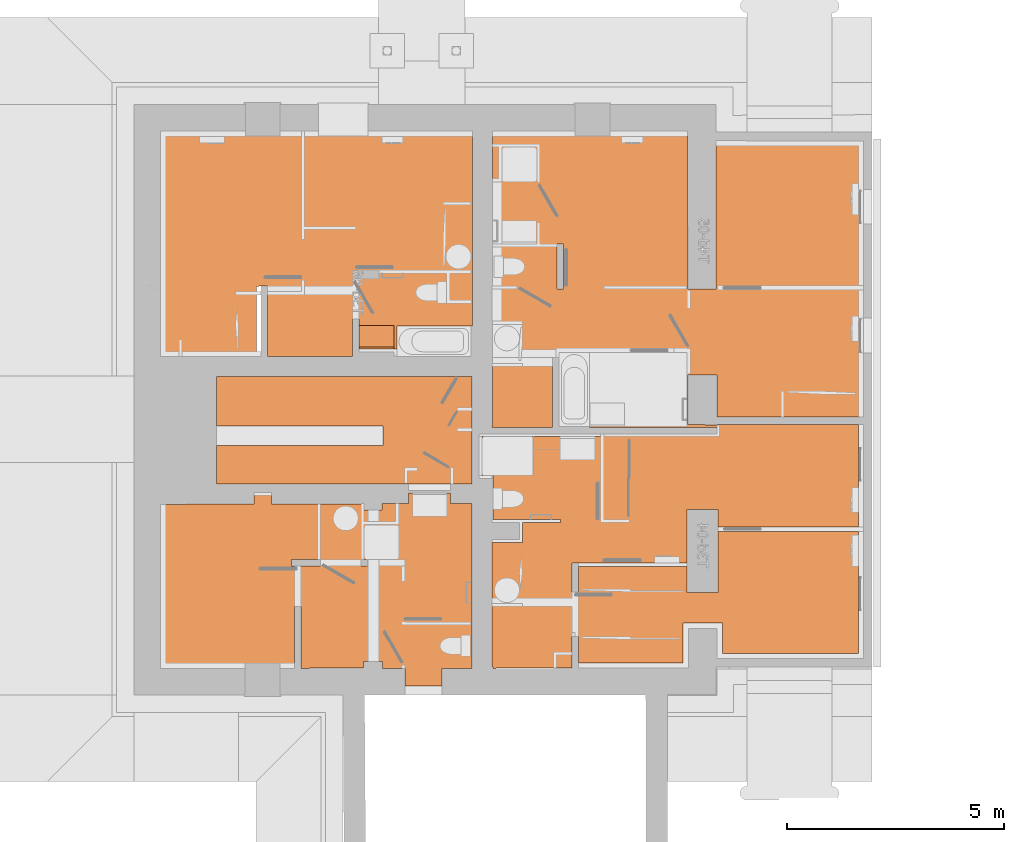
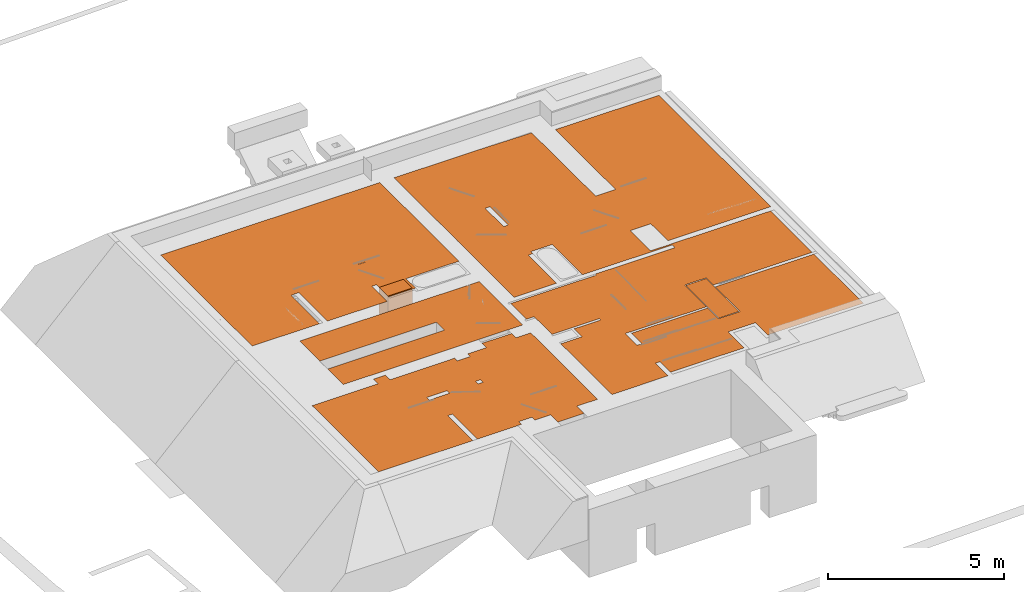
# Not in any storey, part 11 of 22: 2 proxies.
"""IFC4 model written with IfcOpenShell, lengths in metres."""

from ifc_helpers import new_model, si_unit, direction, origin_with_axes, place, context, subcontext, project, faceted_brep, element, save


model = new_model("IFC4")

# Units and contexts
model_context = context("Model", 3, precision=1e-05, world=origin_with_axes(), true_north=direction((1.0, 0.0)))
body_context = subcontext(model_context, "Body", "Model", "MODEL_VIEW")
ifc_project = project(units=[si_unit("LENGTHUNIT", "METRE"), si_unit("AREAUNIT", "SQUARE_METRE"), si_unit("VOLUMEUNIT", "CUBIC_METRE"), si_unit("MASSUNIT", "GRAM", prefix="KILO"), si_unit("TIMEUNIT", "SECOND"), si_unit("PLANEANGLEUNIT", "RADIAN"), si_unit("SOLIDANGLEUNIT", "STERADIAN")], contexts=[model_context])

# Proxies
placement = place(None, origin_with_axes())
element("IfcBuildingElementProxy", 1, at=placement, Name="Bloc Vasque", PredefinedType="NOTDEFINED", context=body_context, shape_type="AdvancedBrep", body=[
    faceted_brep([(145.491386, 24.534842, 1.41), (146.295655, 24.534842, 1.41), (146.295655, 24.517909, 1.41), (145.491386, 24.517909, 1.41), (146.295655, 24.492512, 1.41), (145.491386, 24.492512, 1.41), (146.295655, 24.517909, 1.39), (146.295655, 24.492512, 1.39), (145.491386, 24.492512, 1.39), (145.491386, 24.517909, 1.39), (146.295655, 24.534842, 2.31), (145.491386, 24.534842, 2.31), (145.491386, 25.034335, 2.31), (146.295655, 25.034335, 2.31), (145.491386, 25.034335, 1.41), (146.295655, 25.034335, 1.41), (146.143081, 24.782337, 1.41), (146.134561, 24.834111, 1.41), (146.109579, 24.882357, 1.41), (146.069839, 24.923787, 1.41), (146.018048, 24.955577, 1.41), (145.957737, 24.975561, 1.41), (145.94616, 24.97678, 1.41), (145.942447, 24.977829, 1.41), (145.893015, 24.982377, 1.41), (145.843584, 24.977829, 1.41), (145.839871, 24.976781, 1.41), (145.828294, 24.975561, 1.41), (145.767982, 24.955577, 1.41), (145.716192, 24.923787, 1.41), (145.676452, 24.882357, 1.41), (145.65147, 24.834112, 1.41), (145.642949, 24.782337, 1.41), (145.65147, 24.730563, 1.41), (145.676452, 24.682317, 1.41), (145.716192, 24.640888, 1.41), (145.767982, 24.609097, 1.41), (145.828293, 24.589113, 1.41), (145.893015, 24.582297, 1.41), (145.957737, 24.589113, 1.41), (146.018048, 24.609097, 1.41), (146.069839, 24.640887, 1.41), (146.109579, 24.682317, 1.41), (146.13456, 24.730563, 1.41), (145.677902, 24.87613, 1.41), (145.795813, 24.964337, 1.41), (145.751306, 24.942354, 1.41), (145.711557, 24.912619, 1.41), (145.990218, 24.964337, 1.41), (146.108129, 24.876129, 1.41), (146.074474, 24.912619, 1.41), (146.034725, 24.942354, 1.41), (145.642949, 24.782337, 1.536), (145.65147, 24.834112, 1.536), (145.677902, 24.87613, 1.536), (145.711557, 24.912619, 1.536), (145.751306, 24.942354, 1.536), (145.795813, 24.964337, 1.536), (145.839871, 24.976781, 1.536), (145.893015, 24.982377, 1.536), (145.94616, 24.97678, 1.536), (145.990218, 24.964337, 1.536), (146.034725, 24.942354, 1.536), (146.074474, 24.912619, 1.536), (146.108129, 24.876129, 1.536), (146.134561, 24.834111, 1.536), (146.143081, 24.782337, 1.536), (146.13456, 24.730563, 1.536), (146.109579, 24.682317, 1.536), (146.069839, 24.640887, 1.536), (146.018048, 24.609097, 1.536), (145.957737, 24.589113, 1.536), (145.893015, 24.582297, 1.536), (145.828293, 24.589113, 1.536), (145.767982, 24.609097, 1.536), (145.716192, 24.640888, 1.536), (145.676452, 24.682317, 1.536), (145.65147, 24.730563, 1.536)], [[[0, 1, 2, 3]], [[4, 2, 3, 5]], [[6, 7, 8, 9]], [[2, 4, 7, 6]], [[4, 5, 8, 7]], [[5, 3, 9, 8]], [[3, 2, 6, 9]], [[10, 11, 12, 13]], [[1, 0, 11, 10]], [[0, 14, 12, 11]], [[14, 15, 13, 12]], [[15, 1, 10, 13]], [[14, 15, 1, 0], [16, 17, 18, 19, 20, 21, 22, 23, 24, 25, 26, 27, 28, 29, 30, 31, 32, 33, 34, 35, 36, 37, 38, 39, 40, 41, 42, 43]], [[44, 31, 30, 29, 28, 27, 26, 45, 46, 47]], [[22, 24, 23]], [[24, 26, 25]], [[48, 22, 21, 20, 19, 18, 17, 49, 50, 51]], [[52, 53, 54, 55, 56, 57, 58, 59, 60, 61, 62, 63, 64, 65, 66, 67, 68, 69, 70, 71, 72, 73, 74, 75, 76, 77]], [[32, 31, 53, 52]], [[31, 44, 54, 53]], [[44, 47, 55, 54]], [[47, 46, 56, 55]], [[46, 45, 57, 56]], [[45, 26, 58, 57]], [[26, 24, 59, 58]], [[24, 22, 60, 59]], [[22, 48, 61, 60]], [[48, 51, 62, 61]], [[51, 50, 63, 62]], [[50, 49, 64, 63]], [[49, 17, 65, 64]], [[17, 16, 66, 65]], [[16, 43, 67, 66]], [[43, 42, 68, 67]], [[42, 41, 69, 68]], [[41, 40, 70, 69]], [[40, 39, 71, 70]], [[39, 38, 72, 71]], [[38, 37, 73, 72]], [[37, 36, 74, 73]], [[36, 35, 75, 74]], [[35, 34, 76, 75]], [[34, 33, 77, 76]], [[33, 32, 52, 77]]]),
])
element("IfcBuildingElementProxy", 2, at=placement, Name="Undefined", PredefinedType="NOTDEFINED", context=body_context, shape_type="Brep", body=[
    faceted_brep([(143.662731, 17.123494, 2.31), (144.001315, 17.12362, 2.31), (144.001372, 18.554247, 2.31), (144.15376, 18.554247, 2.31), (144.15376, 17.157357, 2.31), (144.153703, 17.123621, 2.31), (144.204554, 17.123494, 2.31), (144.289214, 17.123494, 2.31), (145.584513, 17.13185, 2.31), (145.601444, 17.13196, 2.31), (145.601444, 17.148892, 2.31), (145.601444, 17.284348, 2.31), (145.698912, 17.284348, 2.31), (145.957016, 17.284348, 2.31), (146.03321, 17.284348, 2.31), (146.03321, 17.123494, 2.31), (146.050142, 17.123494, 2.31), (146.11787, 17.123494, 2.31), (146.473445, 17.123494, 2.31), (146.549635, 17.123494, 2.31), (146.549635, 16.70866, 2.31), (147.413167, 16.70866, 2.31), (147.413167, 17.123494, 2.31), (148.073515, 17.123494, 2.31), (148.098913, 17.123494, 2.31), (148.098913, 18.122594, 2.31), (148.098913, 18.19659, 2.31), (148.098913, 20.924726, 2.31), (148.073515, 20.924726, 2.31), (147.607885, 20.924726, 2.31), (147.607885, 21.17024, 2.31), (147.590953, 21.17024, 2.31), (146.651227, 21.17024, 2.31), (146.634295, 21.17024, 2.31), (146.634295, 20.924726, 2.31), (146.41418, 20.924726, 2.31), (146.337992, 20.924726, 2.31), (146.024744, 20.924726, 2.31), (146.024744, 20.772337, 2.31), (145.607653, 20.772337, 2.31), (145.592978, 20.772337, 2.31), (145.592978, 20.924578, 2.31), (145.533648, 20.924345, 2.31), (145.533717, 20.91626, 2.31), (144.602467, 20.91626, 2.31), (144.528466, 20.91626, 2.31), (143.47648, 20.91626, 2.31), (143.468014, 21.373422, 2.31), (143.468014, 21.178705, 2.31), (143.070111, 21.178705, 2.31), (143.070111, 21.110976, 2.31), (143.070111, 20.91626, 2.31), (141.033163, 20.908272, 2.31), (140.911282, 20.907794, 2.31), (140.911282, 20.662279, 2.31), (140.911282, 20.052729, 2.31), (140.911282, 17.123494, 2.31), (142.858461, 17.123494, 2.31), (145.533717, 19.485506, 2.31), (145.533717, 19.629428, 2.31), (145.69322, 19.629428, 2.31), (145.693569, 19.485506, 2.31), (143.933644, 19.485506, 2.31), (143.933644, 19.629428, 2.31), (144.602457, 19.629428, 2.31), (144.602457, 19.485506, 2.31), (147.599419, 23.862424, 2.31), (146.608897, 23.862424, 2.31), (142.206581, 23.862424, 2.31), (142.202665, 22.711061, 2.31), (146.041676, 22.719516, 2.31), (146.041676, 22.711061, 2.31), (146.041676, 22.270818, 2.31), (142.201138, 22.262359, 2.31), (142.198115, 21.373422, 2.31), (143.070111, 21.373422, 2.31), (146.62583, 21.381889, 2.31), (147.59942, 21.38189, 2.31), (147.607885, 21.381889, 2.31), (147.607885, 21.373422, 2.31), (148.098913, 21.373422, 2.31), (148.098913, 21.500413, 2.31), (148.098913, 22.744913, 2.31), (148.098913, 23.862424, 2.31), (147.828001, 23.862424, 2.31), (147.760273, 23.862424, 2.31), (148.573009, 26.844653, 2.31), (148.573009, 25.953527, 2.31), (149.14023, 25.953527, 2.31), (149.14023, 25.91543, 2.31), (150.063024, 25.91543, 2.31), (150.063024, 26.844653, 2.31), (148.573008, 29.153533, 2.31), (148.573009, 26.918679, 2.31), (149.597393, 26.918648, 2.31), (149.597393, 27.418143, 2.31), (149.63549, 27.418143, 2.31), (149.63549, 28.340936, 2.31), (149.597393, 28.340936, 2.31), (149.597393, 29.153533, 2.31), (150.139216, 20.560687, 2.31), (150.139216, 20.484494, 2.31), (151.070475, 20.484494, 2.31), (151.73929, 20.484497, 2.31), (151.73929, 20.558494, 2.31), (151.144471, 20.558494, 2.31), (151.144475, 22.473208, 2.31), (148.327451, 22.473219, 2.31), (148.327538, 21.568508, 2.31), (148.581474, 21.568141, 2.31), (148.581474, 20.560687, 2.31), (153.06845, 22.702585, 2.31), (150.816497, 22.702585, 2.31), (150.816497, 22.685652, 2.31), (153.068451, 22.685652, 2.31), (153.085381, 22.685652, 2.31), (153.754196, 22.685652, 2.31), (153.754196, 22.744913, 2.31), (153.754195, 22.74531, 2.31), (153.085384, 22.745596, 2.31), (153.085381, 23.892056, 2.31), (153.085384, 23.896289, 2.31), (153.093849, 23.896289, 2.31), (153.754196, 23.896289, 2.31), (153.754196, 22.92804, 2.31), (154.783143, 22.928114, 2.31), (155.235747, 22.928147, 2.31), (155.235799, 22.928146, 2.31), (157.137778, 22.928285, 2.31), (157.137778, 24.40425, 2.31), (157.137778, 25.208519, 2.31), (157.137778, 25.860664, 2.31), (157.137778, 25.962256, 2.31), (157.137736, 27.375815, 2.31), (157.137753, 27.688886, 2.31), (157.137713, 28.180085, 2.31), (157.137692, 29.180271, 2.31), (157.137681, 29.300976, 2.31), (153.737265, 29.300879, 2.31), (153.737265, 25.877333, 2.31), (153.085381, 25.877333, 2.31), (153.076978, 29.499498, 2.31), (151.282125, 29.526176, 2.31), (150.477857, 29.526176, 2.31), (148.573008, 29.526176, 2.31), (148.573009, 29.227524, 2.31), (150.063024, 26.918649, 2.31), (150.215411, 26.918649, 2.31), (150.215411, 25.877333, 2.31), (150.063024, 25.877333, 2.31), (148.573009, 22.744913, 2.31), (148.564615, 22.744913, 2.31), (148.564542, 22.685652, 2.31), (149.961431, 22.685652, 2.31), (149.961431, 24.091007, 2.31), (149.961431, 24.294191, 2.31), (150.113819, 24.294191, 2.31), (150.113823, 24.41272, 2.31), (150.816497, 24.41272, 2.31), (153.06845, 24.41272, 2.31), (150.562517, 19.55016, 2.31), (153.068451, 19.55016, 2.31), (153.068451, 20.789269, 2.31), (153.779595, 20.789269, 2.31), (153.779595, 20.382907, 2.31), (157.019378, 20.382906, 2.31), (157.019378, 22.748276, 2.31), (154.783143, 22.748115, 2.31), (153.754196, 22.748039, 2.31), (153.754196, 22.745596, 2.31), (153.754196, 22.545304, 2.31), (153.754196, 22.533263, 2.31), (151.144475, 22.533263, 2.31), (149.267225, 20.484494, 2.31), (149.267225, 20.02733, 2.31), (148.564542, 20.02733, 2.31), (148.564542, 18.748964, 2.31), (148.564542, 18.613508, 2.31), (148.564542, 17.148892, 2.31), (148.581474, 17.148892, 2.31), (148.581474, 17.123494, 2.31), (148.920983, 17.125232, 2.31), (149.978364, 17.13039, 2.31), (150.300071, 17.13196, 2.31), (150.410129, 17.13196, 2.31), (150.410129, 17.430462, 2.31), (150.410129, 17.504462, 2.31), (150.410129, 17.851569, 2.31), (150.410129, 18.884421, 2.31), (150.410129, 19.553234, 2.31), (150.562517, 19.553234, 2.31), (153.085381, 19.485506, 2.31), (153.085381, 19.553234, 2.31), (153.085381, 20.759638, 2.31), (153.085381, 20.763871, 2.31), (153.093849, 20.763871, 2.31), (153.754196, 20.763871, 2.31), (153.762664, 20.763871, 2.31), (153.762664, 18.884421, 2.31), (153.093849, 18.884421, 2.31), (153.093849, 19.485506, 2.31), (145.948558, 26.121287, 2.31), (145.94855, 26.11438, 2.31), (145.385024, 26.11438, 2.31), (145.385024, 25.18312, 2.31), (145.338998, 25.18312, 2.31), (145.338998, 24.33652, 2.31), (145.338998, 24.319589, 2.31), (143.721994, 24.319589, 2.31), (143.535742, 24.319589, 2.31), (143.383353, 24.319589, 2.31), (143.383353, 25.94506, 2.31), (143.230965, 25.94506, 2.31), (143.127087, 25.940511, 2.31), (143.127087, 24.319565, 2.31), (140.911536, 24.319565, 2.31), (140.911536, 24.319842, 2.31), (140.911536, 25.843479, 2.31), (140.911282, 25.843468, 2.31), (140.911282, 26.723932, 2.31), (140.911282, 29.526176, 2.31), (142.866927, 29.526176, 2.31), (143.671196, 29.526176, 2.31), (144.560128, 29.526177, 2.31), (144.560623, 29.526176, 2.31), (145.694571, 29.526177, 2.31), (146.041676, 29.526177, 2.31), (148.107378, 29.526176, 2.31), (148.107378, 29.40765, 2.31), (148.107378, 29.404368, 2.31), (148.107378, 25.547158, 2.31), (147.514765, 25.547158, 2.31), (147.514765, 26.241369, 2.31), (145.952873, 26.241369, 2.31), (145.948785, 26.12129, 2.31), (145.948785, 26.31537, 2.31), (145.347465, 26.31537, 2.31), (145.347465, 26.317564, 2.31), (150.562517, 17.851569, 2.31), (150.562517, 17.250346, 2.31), (152.975327, 17.250346, 2.31), (152.975327, 18.164811, 2.31), (153.88267, 18.164811, 2.31), (153.88267, 17.469048, 2.31), (157.020652, 17.469048, 2.31), (157.020651, 20.28131, 2.31), (153.779595, 20.28131, 2.31), (153.779595, 18.867488, 2.31), (153.068451, 18.867488, 2.31), (153.068451, 19.47616, 2.31), (150.562517, 19.47616, 2.31), (150.562517, 18.884421, 2.31), (150.484124, 17.851569, 2.31)], [[[0, 1, 2, 3, 4, 5, 6, 7, 8, 9, 10, 11, 12, 13, 14, 15, 16, 17, 18, 19, 20, 21, 22, 23, 24, 25, 26, 27, 28, 29, 30, 31, 32, 33, 34, 35, 36, 37, 38, 39, 40, 41, 42, 43, 44, 45, 46, 47, 48, 49, 50, 51, 52, 53, 54, 55, 56, 57], [58, 59, 60, 61], [62, 63, 64, 65]], [[66, 67, 68, 69, 70, 71, 72, 73, 74, 75, 47, 76, 77, 78, 79, 80, 81, 82, 83, 84, 85]], [[86, 87, 88, 89, 90, 91]], [[92, 93, 94, 95, 96, 97, 98, 99]], [[100, 101, 102, 103, 104, 105, 106, 107, 108, 109, 110]], [[111, 112, 113, 114, 115, 116, 117, 118, 119, 120, 121, 122, 123, 124, 125, 126, 127, 128, 129, 130, 131, 132, 133, 134, 135, 136, 137, 138, 139, 140, 141, 142, 143, 144, 145, 92, 99, 98, 97, 96, 95, 94, 93, 86, 91, 146, 147, 148, 149, 90, 89, 88, 87, 150, 151, 152, 153, 154, 155, 156, 157, 158, 159]], [[160, 161, 162, 163, 164, 165, 166, 167, 168, 169, 118, 117, 116, 170, 171, 172, 106, 105, 104, 103, 102, 101, 173, 174, 175, 176, 177, 178, 179, 180, 181, 182, 183, 184, 185, 186, 187, 188, 189, 190], [191, 192, 193, 194, 195, 196, 197, 198, 199, 200]], [[201, 202, 203, 204, 205, 206, 207, 208, 209, 210, 211, 212, 213, 214, 215, 216, 217, 218, 219, 220, 221, 222, 223, 224, 225, 226, 227, 228, 229, 230, 231, 232, 233, 234, 235], [236, 235, 237]], [[238, 239, 240, 241, 242, 243, 244, 245, 246, 247, 248, 249, 250, 251, 188, 187, 252]], [[158, 112, 111, 159]]]),
    faceted_brep([(145.491386, 25.18312, 2.31), (145.385024, 25.18312, 2.31), (145.385024, 26.11438, 2.31), (145.94855, 26.11438, 2.31), (145.948785, 26.11438, 2.31), (145.948785, 26.12129, 2.31), (145.952873, 26.241369, 2.31), (147.514765, 26.241369, 2.31), (147.514765, 25.547158, 2.31), (148.107378, 25.547158, 2.31), (148.107378, 25.022266, 2.31), (146.371847, 25.022266, 2.31), (146.371847, 24.488858, 2.31), (145.491386, 24.488858, 2.31)], [[[0, 1, 2, 3, 4, 5, 6, 7, 8, 9, 10, 11, 12, 13]]]),
])

save(model, "model.ifc")
